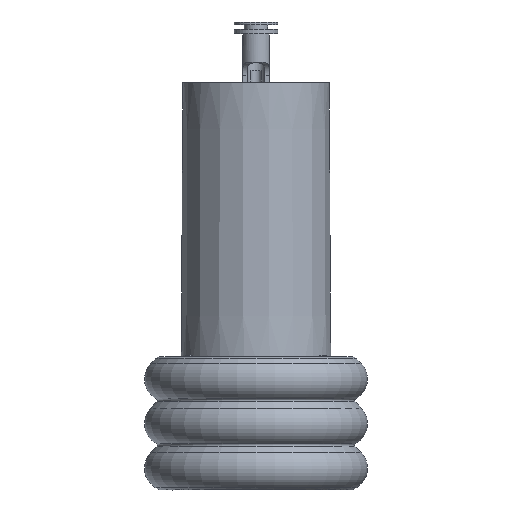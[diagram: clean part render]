
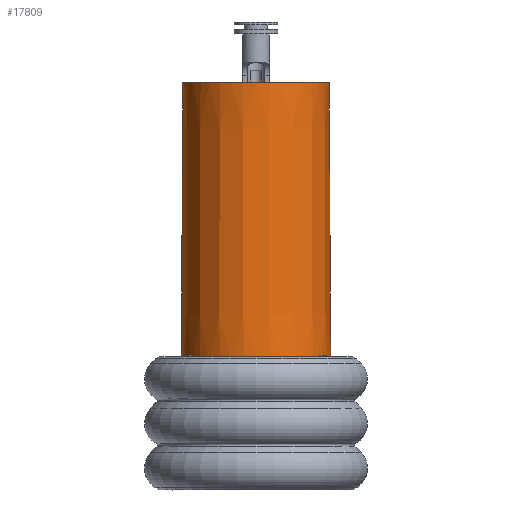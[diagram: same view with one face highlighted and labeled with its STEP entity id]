
A CAD part, left-side view. The second image highlights one B-rep face of the part: STEP entity #17809.
In plain terms, the highlighted conical face has half-angle 0.3 degrees and reference radius 42 mm.
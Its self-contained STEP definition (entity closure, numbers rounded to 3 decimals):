
#197=CONICAL_SURFACE('',#19036,42.,0.005);
#1395=B_SPLINE_CURVE_WITH_KNOTS('',3,(#78830,#78831,#78832,#78833,#78834,
#78835),.UNSPECIFIED.,.F.,.F.,(4,2,4),(0.076,0.081,
0.152),.UNSPECIFIED.);
#1396=B_SPLINE_CURVE_WITH_KNOTS('',3,(#78842,#78843,#78844,#78845,#78846,
#78847,#78848,#78849,#78850,#78851,#78852,#78853,#78854,#78855),
 .UNSPECIFIED.,.F.,.F.,(4,2,2,2,2,2,4),(0.,0.,
0.,0.,0.001,0.003,
0.006),.UNSPECIFIED.);
#1397=B_SPLINE_CURVE_WITH_KNOTS('',3,(#78858,#78859,#78860,#78861,#78862,
#78863),.UNSPECIFIED.,.F.,.F.,(4,2,4),(0.076,0.081,
0.152),.UNSPECIFIED.);
#2232=FACE_OUTER_BOUND('',#3262,.T.);
#3262=EDGE_LOOP('',(#13063,#13064,#13065,#13066,#13067,#13068,#13069,#13070,
#13071,#13072));
#4329=LINE('',#78837,#5314);
#4330=LINE('',#78838,#5315);
#4331=LINE('',#78840,#5316);
#4332=LINE('',#78857,#5317);
#5314=VECTOR('',#21392,10.);
#5315=VECTOR('',#21393,10.);
#5316=VECTOR('',#21394,1000.);
#5317=VECTOR('',#21395,10.);
#6063=CIRCLE('',#18995,41.869);
#6065=CIRCLE('',#18997,41.869);
#6087=CIRCLE('',#19037,41.046);
#7403=VERTEX_POINT('',#77926);
#7404=VERTEX_POINT('',#77927);
#7406=VERTEX_POINT('',#77931);
#7445=VERTEX_POINT('',#78826);
#7446=VERTEX_POINT('',#78827);
#7447=VERTEX_POINT('',#78829);
#7448=VERTEX_POINT('',#78836);
#7449=VERTEX_POINT('',#78839);
#7450=VERTEX_POINT('',#78841);
#7451=VERTEX_POINT('',#78856);
#9552=EDGE_CURVE('',#7403,#7404,#6063,.T.);
#9555=EDGE_CURVE('',#7404,#7406,#6065,.T.);
#9614=EDGE_CURVE('',#7445,#7446,#6087,.T.);
#9615=EDGE_CURVE('',#7445,#7447,#1395,.T.);
#9616=EDGE_CURVE('',#7447,#7448,#4329,.T.);
#9617=EDGE_CURVE('',#7448,#7403,#4330,.T.);
#9618=EDGE_CURVE('',#7449,#7406,#4331,.T.);
#9619=EDGE_CURVE('',#7449,#7450,#1396,.T.);
#9620=EDGE_CURVE('',#7450,#7451,#4332,.T.);
#9621=EDGE_CURVE('',#7446,#7451,#1397,.T.);
#13063=ORIENTED_EDGE('',*,*,#9614,.F.);
#13064=ORIENTED_EDGE('',*,*,#9615,.T.);
#13065=ORIENTED_EDGE('',*,*,#9616,.T.);
#13066=ORIENTED_EDGE('',*,*,#9617,.T.);
#13067=ORIENTED_EDGE('',*,*,#9552,.T.);
#13068=ORIENTED_EDGE('',*,*,#9555,.T.);
#13069=ORIENTED_EDGE('',*,*,#9618,.F.);
#13070=ORIENTED_EDGE('',*,*,#9619,.T.);
#13071=ORIENTED_EDGE('',*,*,#9620,.T.);
#13072=ORIENTED_EDGE('',*,*,#9621,.F.);
#17809=ADVANCED_FACE('',(#2232),#197,.T.);
#18995=AXIS2_PLACEMENT_3D('',#77928,#21301,#21302);
#18997=AXIS2_PLACEMENT_3D('',#77936,#21305,#21306);
#19036=AXIS2_PLACEMENT_3D('',#78825,#21388,#21389);
#19037=AXIS2_PLACEMENT_3D('',#78828,#21390,#21391);
#21301=DIRECTION('center_axis',(0.,0.,
1.));
#21302=DIRECTION('ref_axis',(-1.,0.,0.));
#21305=DIRECTION('center_axis',(0.,0.,
1.));
#21306=DIRECTION('ref_axis',(-1.,0.,0.));
#21388=DIRECTION('center_axis',(0.,0.,
-1.));
#21389=DIRECTION('ref_axis',(0.,1.,0.));
#21390=DIRECTION('center_axis',(0.,0.,
1.));
#21391=DIRECTION('ref_axis',(1.,0.,0.));
#21392=DIRECTION('',(0.,-0.005,-1.));
#21393=DIRECTION('',(0.,-0.005,-1.));
#21394=DIRECTION('',(0.,-0.005,-1.));
#21395=DIRECTION('',(0.,0.005,1.));
#77926=CARTESIAN_POINT('',(35.424,-288.404,112.896));
#77927=CARTESIAN_POINT('',(-15.445,-247.514,112.895));
#77928=CARTESIAN_POINT('Origin',(26.424,-247.514,112.895));
#77931=CARTESIAN_POINT('',(17.424,-288.404,112.896));
#77936=CARTESIAN_POINT('Origin',(26.424,-247.514,112.895));
#78825=CARTESIAN_POINT('Origin',(26.424,-247.514,87.934));
#78826=CARTESIAN_POINT('',(35.424,-287.561,270.187));
#78827=CARTESIAN_POINT('',(17.424,-287.561,270.187));
#78828=CARTESIAN_POINT('Origin',(26.424,-247.514,270.187));
#78829=CARTESIAN_POINT('',(35.424,-287.968,194.187));
#78830=CARTESIAN_POINT('Ctrl Pts',(35.424,-287.561,270.187));
#78831=CARTESIAN_POINT('Ctrl Pts',(35.424,-287.569,268.579));
#78832=CARTESIAN_POINT('Ctrl Pts',(35.424,-287.578,266.972));
#78833=CARTESIAN_POINT('Ctrl Pts',(35.424,-287.714,241.638));
#78834=CARTESIAN_POINT('Ctrl Pts',(35.424,-287.841,217.912));
#78835=CARTESIAN_POINT('Ctrl Pts',(35.424,-287.968,194.187));
#78836=CARTESIAN_POINT('',(35.424,-288.372,118.866));
#78837=CARTESIAN_POINT('',(35.424,-287.968,194.187));
#78838=CARTESIAN_POINT('',(35.424,-288.372,118.866));
#78839=CARTESIAN_POINT('',(17.424,-288.404,112.917));
#78840=CARTESIAN_POINT('',(17.424,-287.968,194.187));
#78841=CARTESIAN_POINT('',(17.424,-288.372,118.866));
#78842=CARTESIAN_POINT('Ctrl Pts',(17.424,-288.404,112.917));
#78843=CARTESIAN_POINT('Ctrl Pts',(17.426,-288.404,112.979));
#78844=CARTESIAN_POINT('Ctrl Pts',(17.427,-288.404,113.041));
#78845=CARTESIAN_POINT('Ctrl Pts',(17.429,-288.404,113.165));
#78846=CARTESIAN_POINT('Ctrl Pts',(17.432,-288.404,113.227));
#78847=CARTESIAN_POINT('Ctrl Pts',(17.429,-288.402,113.413));
#78848=CARTESIAN_POINT('Ctrl Pts',(17.428,-288.402,113.537));
#78849=CARTESIAN_POINT('Ctrl Pts',(17.426,-288.399,113.908));
#78850=CARTESIAN_POINT('Ctrl Pts',(17.426,-288.398,114.156));
#78851=CARTESIAN_POINT('Ctrl Pts',(17.425,-288.394,114.9));
#78852=CARTESIAN_POINT('Ctrl Pts',(17.425,-288.391,115.396));
#78853=CARTESIAN_POINT('Ctrl Pts',(17.425,-288.383,116.883));
#78854=CARTESIAN_POINT('Ctrl Pts',(17.424,-288.378,117.875));
#78855=CARTESIAN_POINT('Ctrl Pts',(17.424,-288.372,118.866));
#78856=CARTESIAN_POINT('',(17.424,-287.968,194.187));
#78857=CARTESIAN_POINT('',(17.424,-288.372,118.866));
#78858=CARTESIAN_POINT('Ctrl Pts',(17.424,-287.561,270.187));
#78859=CARTESIAN_POINT('Ctrl Pts',(17.424,-287.569,268.579));
#78860=CARTESIAN_POINT('Ctrl Pts',(17.424,-287.578,266.972));
#78861=CARTESIAN_POINT('Ctrl Pts',(17.424,-287.714,241.638));
#78862=CARTESIAN_POINT('Ctrl Pts',(17.424,-287.841,217.912));
#78863=CARTESIAN_POINT('Ctrl Pts',(17.424,-287.968,194.187));
